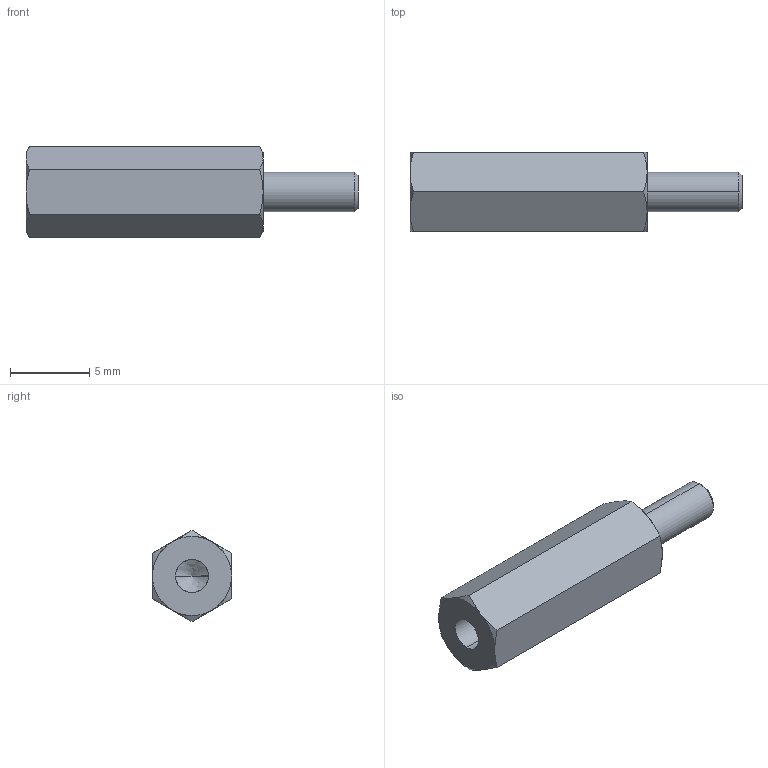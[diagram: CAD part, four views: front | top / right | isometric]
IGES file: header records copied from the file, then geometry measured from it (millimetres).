
Start section: SolidWorks IGES file using analytic representation for surfaces
Global section: file name: C:\Users\render1\Desktop\P0185_IGES\P0185.025-15.igs; native system: SolidWorks 2009; preprocessor: SolidWorks 2009; author: render1; date: 130627.111521; units: millimetre
Bounding box: 21 x 5 x 5.77 mm (x, y, z)
Surface area: 387.4 mm2 (no closed solid volume)
Topology: 0 solids, 0 shells, 29 faces, 324 edges, 322 vertices
Faces by surface type: revolution 20, bspline 9
